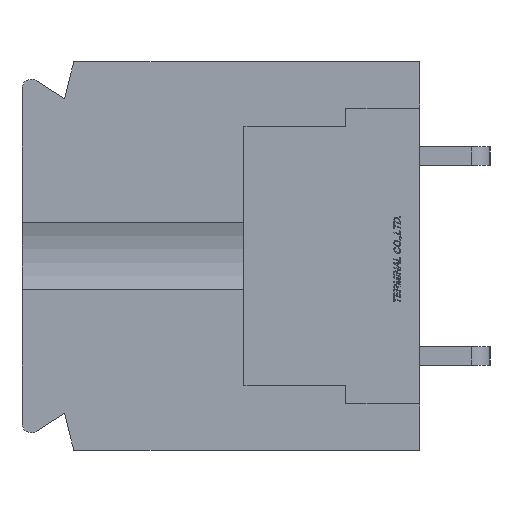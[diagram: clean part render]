
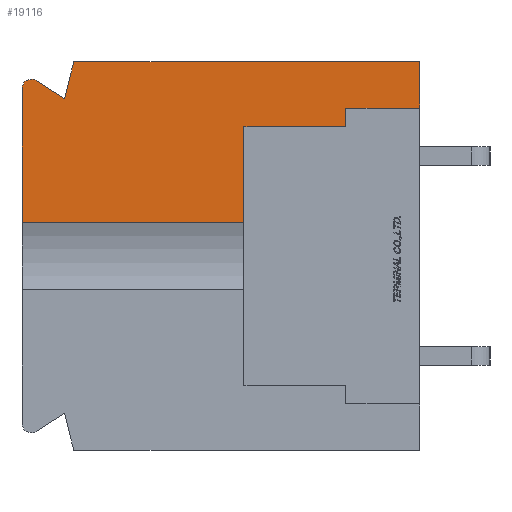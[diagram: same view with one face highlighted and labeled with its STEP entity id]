
A CAD part, left-side view. The second image highlights one B-rep face of the part: STEP entity #19116.
In plain terms, the highlighted planar face has unit normal (-1, 0, 0).
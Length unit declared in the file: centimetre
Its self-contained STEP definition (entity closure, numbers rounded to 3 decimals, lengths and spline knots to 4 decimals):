
#537=CIRCLE('',#32355,0.05);
#1009=VECTOR('',#21248,1.);
#1010=VECTOR('',#21249,1.);
#1011=VECTOR('',#21250,1.);
#1012=VECTOR('',#21251,1.);
#1013=VECTOR('',#21252,1.);
#1014=VECTOR('',#21253,1.);
#1015=VECTOR('',#21254,1.);
#1016=VECTOR('',#21255,1.);
#1017=VECTOR('',#21258,1.);
#1018=VECTOR('',#21259,1.);
#3312=LINE('',#25489,#1009);
#3313=LINE('',#25492,#1010);
#3314=LINE('',#25494,#1011);
#3315=LINE('',#25496,#1012);
#3316=LINE('',#25498,#1013);
#3317=LINE('',#25500,#1014);
#3318=LINE('',#25502,#1015);
#3319=LINE('',#25504,#1016);
#3320=LINE('',#25508,#1017);
#3321=LINE('',#25510,#1018);
#5628=VERTEX_POINT('',#25490);
#5629=VERTEX_POINT('',#25491);
#5630=VERTEX_POINT('',#25493);
#5631=VERTEX_POINT('',#25495);
#5632=VERTEX_POINT('',#25497);
#5633=VERTEX_POINT('',#25499);
#5634=VERTEX_POINT('',#25501);
#5635=VERTEX_POINT('',#25503);
#5636=VERTEX_POINT('',#25505);
#5637=VERTEX_POINT('',#25507);
#5638=VERTEX_POINT('',#25509);
#7761=EDGE_CURVE('',#5628,#5629,#3312,.T.);
#7762=EDGE_CURVE('',#5630,#5628,#3313,.T.);
#7763=EDGE_CURVE('',#5631,#5630,#3314,.T.);
#7764=EDGE_CURVE('',#5632,#5631,#3315,.T.);
#7765=EDGE_CURVE('',#5633,#5632,#3316,.T.);
#7766=EDGE_CURVE('',#5634,#5633,#3317,.T.);
#7767=EDGE_CURVE('',#5635,#5634,#3318,.T.);
#7768=EDGE_CURVE('',#5636,#5635,#3319,.T.);
#7769=EDGE_CURVE('',#5637,#5636,#537,.T.);
#7770=EDGE_CURVE('',#5638,#5637,#3320,.T.);
#7771=EDGE_CURVE('',#5638,#5629,#3321,.T.);
#10853=ORIENTED_EDGE('',*,*,#7761,.F.);
#10854=ORIENTED_EDGE('',*,*,#7762,.F.);
#10855=ORIENTED_EDGE('',*,*,#7763,.F.);
#10856=ORIENTED_EDGE('',*,*,#7764,.F.);
#10857=ORIENTED_EDGE('',*,*,#7765,.F.);
#10858=ORIENTED_EDGE('',*,*,#7766,.F.);
#10859=ORIENTED_EDGE('',*,*,#7767,.F.);
#10860=ORIENTED_EDGE('',*,*,#7768,.F.);
#10861=ORIENTED_EDGE('',*,*,#7769,.F.);
#10862=ORIENTED_EDGE('',*,*,#7770,.F.);
#10863=ORIENTED_EDGE('',*,*,#7771,.T.);
#16654=EDGE_LOOP('',(#10853,#10854,#10855,#10856,#10857,#10858,#10859,#10860,
#10861,#10862,#10863));
#17890=FACE_BOUND('',#16654,.T.);
#19116=ADVANCED_FACE('',(#17890),#20220,.F.);
#20220=PLANE('',#32354);
#21247=DIRECTION('',(1.,0.,0.));
#21248=DIRECTION('',(0.,0.,-1.));
#21249=DIRECTION('',(0.,1.,0.));
#21250=DIRECTION('',(0.,0.,-1.));
#21251=DIRECTION('',(0.,1.,0.));
#21252=DIRECTION('',(0.,0.,-1.));
#21253=DIRECTION('',(0.,-1.,0.));
#21254=DIRECTION('',(0.,-0.243,0.97));
#21255=DIRECTION('',(0.,-0.844,-0.536));
#21256=DIRECTION('',(1.,0.,0.));
#21257=DIRECTION('',(0.,0.,-0.05));
#21258=DIRECTION('',(0.,0.,1.));
#21259=DIRECTION('',(0.,-1.,0.));
#25488=CARTESIAN_POINT('',(-1.1,1.082,0.));
#25489=CARTESIAN_POINT('',(-1.1,0.95,-0.7));
#25490=CARTESIAN_POINT('',(-1.1,0.95,0.7));
#25491=CARTESIAN_POINT('',(-1.1,0.95,0.1809));
#25492=CARTESIAN_POINT('',(-1.1,0.95,0.7));
#25493=CARTESIAN_POINT('',(-1.1,0.4,0.7));
#25494=CARTESIAN_POINT('',(-1.1,0.4,0.7));
#25495=CARTESIAN_POINT('',(-1.1,0.4,0.8));
#25496=CARTESIAN_POINT('',(-1.1,0.4,0.8));
#25497=CARTESIAN_POINT('',(-1.1,0.,0.8));
#25498=CARTESIAN_POINT('',(-1.1,0.,1.05));
#25499=CARTESIAN_POINT('',(-1.1,0.,1.05));
#25500=CARTESIAN_POINT('',(-1.1,1.87,1.05));
#25501=CARTESIAN_POINT('',(-1.1,1.87,1.05));
#25502=CARTESIAN_POINT('',(-1.1,1.92,0.85));
#25503=CARTESIAN_POINT('',(-1.1,1.92,0.85));
#25504=CARTESIAN_POINT('',(-1.1,2.0742,0.9478));
#25505=CARTESIAN_POINT('',(-1.1,2.0742,0.9478));
#25506=CARTESIAN_POINT('',(-1.1,2.1,0.905));
#25507=CARTESIAN_POINT('',(-1.1,2.15,0.905));
#25508=CARTESIAN_POINT('',(-1.1,2.15,-0.905));
#25509=CARTESIAN_POINT('',(-1.1,2.15,0.1809));
#25510=CARTESIAN_POINT('',(-1.1,1.55,0.1809));
#32354=AXIS2_PLACEMENT_3D('',#25488,#21247,$);
#32355=AXIS2_PLACEMENT_3D('',#25506,#21256,#21257);
